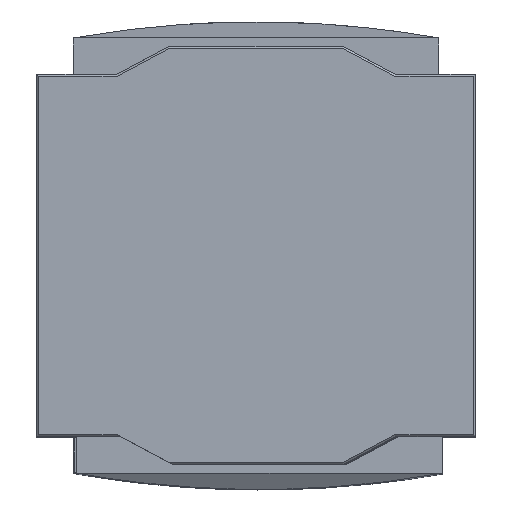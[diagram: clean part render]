
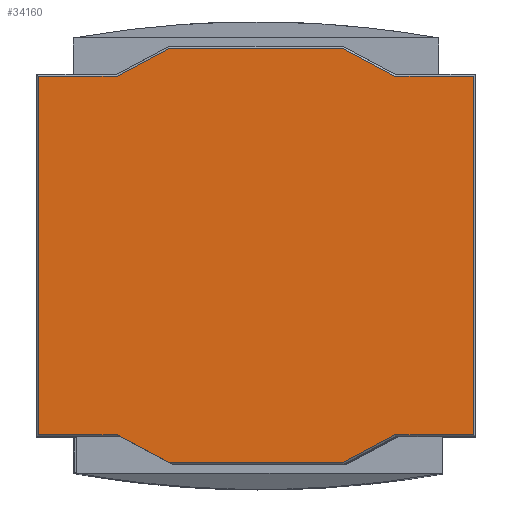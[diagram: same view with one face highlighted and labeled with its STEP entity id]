
A CAD part, top view. The second image highlights one B-rep face of the part: STEP entity #34160.
In plain terms, the highlighted planar face has unit normal (0, 0, 1).
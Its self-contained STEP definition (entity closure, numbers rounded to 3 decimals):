
#20297=CARTESIAN_POINT('',(12.437,-29.75,37.5));
#20298=VERTEX_POINT('',#20297);
#20305=CARTESIAN_POINT('',(-12.437,-29.75,37.5));
#20306=VERTEX_POINT('',#20305);
#20307=CARTESIAN_POINT('',(12.437,-29.75,37.5));
#20308=DIRECTION('',(-1.0,0.0,0.0));
#20309=VECTOR('',#20308,24.875);
#20310=LINE('',#20307,#20309);
#20311=EDGE_CURVE('',#20298,#20306,#20310,.T.);
#33854=CARTESIAN_POINT('',(-31.25,25.75,37.5));
#33855=VERTEX_POINT('',#33854);
#33862=CARTESIAN_POINT('',(-19.938,25.75,37.5));
#33863=VERTEX_POINT('',#33862);
#33864=CARTESIAN_POINT('',(-31.25,25.75,37.5));
#33865=DIRECTION('',(1.0,0.0,0.0));
#33866=VECTOR('',#33865,11.312);
#33867=LINE('',#33864,#33866);
#33868=EDGE_CURVE('',#33855,#33863,#33867,.T.);
#33886=CARTESIAN_POINT('',(-19.937,-25.75,37.5));
#33887=VERTEX_POINT('',#33886);
#33888=CARTESIAN_POINT('',(-31.25,-25.75,37.5));
#33889=VERTEX_POINT('',#33888);
#33890=CARTESIAN_POINT('',(-19.937,-25.75,37.5));
#33891=DIRECTION('',(-1.0,0.0,0.0));
#33892=VECTOR('',#33891,11.313);
#33893=LINE('',#33890,#33892);
#33894=EDGE_CURVE('',#33887,#33889,#33893,.T.);
#33918=CARTESIAN_POINT('',(-12.438,29.75,37.5));
#33919=VERTEX_POINT('',#33918);
#33920=CARTESIAN_POINT('',(-19.938,25.75,37.5));
#33921=DIRECTION('',(0.882,0.471,0.0));
#33922=VECTOR('',#33921,8.5);
#33923=LINE('',#33920,#33922);
#33924=EDGE_CURVE('',#33863,#33919,#33923,.T.);
#33942=CARTESIAN_POINT('',(12.438,29.75,37.5));
#33943=VERTEX_POINT('',#33942);
#33944=CARTESIAN_POINT('',(-12.438,29.75,37.5));
#33945=DIRECTION('',(1.0,0.0,0.0));
#33946=VECTOR('',#33945,24.875);
#33947=LINE('',#33944,#33946);
#33948=EDGE_CURVE('',#33919,#33943,#33947,.T.);
#33966=CARTESIAN_POINT('',(19.937,25.75,37.5));
#33967=VERTEX_POINT('',#33966);
#33968=CARTESIAN_POINT('',(31.25,25.75,37.5));
#33969=VERTEX_POINT('',#33968);
#33970=CARTESIAN_POINT('',(19.937,25.75,37.5));
#33971=DIRECTION('',(1.0,0.0,0.0));
#33972=VECTOR('',#33971,11.313);
#33973=LINE('',#33970,#33972);
#33974=EDGE_CURVE('',#33967,#33969,#33973,.T.);
#33998=CARTESIAN_POINT('',(31.25,-25.75,37.5));
#33999=VERTEX_POINT('',#33998);
#34021=CARTESIAN_POINT('',(31.25,25.75,37.5));
#34022=DIRECTION('',(0.0,-1.0,0.0));
#34023=VECTOR('',#34022,51.5);
#34024=LINE('',#34021,#34023);
#34025=EDGE_CURVE('',#33969,#33999,#34024,.T.);
#34042=CARTESIAN_POINT('',(19.937,-25.75,37.5));
#34043=VERTEX_POINT('',#34042);
#34044=CARTESIAN_POINT('',(31.25,-25.75,37.5));
#34045=DIRECTION('',(-1.0,0.0,0.0));
#34046=VECTOR('',#34045,11.313);
#34047=LINE('',#34044,#34046);
#34048=EDGE_CURVE('',#33999,#34043,#34047,.T.);
#34064=CARTESIAN_POINT('',(19.937,-25.75,37.5));
#34065=DIRECTION('',(-0.882,-0.471,0.0));
#34066=VECTOR('',#34065,8.5);
#34067=LINE('',#34064,#34066);
#34068=EDGE_CURVE('',#34043,#20298,#34067,.T.);
#34081=CARTESIAN_POINT('',(12.438,29.75,37.5));
#34082=DIRECTION('',(0.882,-0.471,0.0));
#34083=VECTOR('',#34082,8.5);
#34084=LINE('',#34081,#34083);
#34085=EDGE_CURVE('',#33943,#33967,#34084,.T.);
#34100=CARTESIAN_POINT('',(-12.437,-29.75,37.5));
#34101=DIRECTION('',(-0.882,0.471,0.0));
#34102=VECTOR('',#34101,8.5);
#34103=LINE('',#34100,#34102);
#34104=EDGE_CURVE('',#20306,#33887,#34103,.T.);
#34119=CARTESIAN_POINT('',(-31.25,-25.75,37.5));
#34120=DIRECTION('',(0.0,1.0,0.0));
#34121=VECTOR('',#34120,51.5);
#34122=LINE('',#34119,#34121);
#34123=EDGE_CURVE('',#33889,#33855,#34122,.T.);
#34141=CARTESIAN_POINT('',(0.,0.,37.5));
#34142=DIRECTION('',(0.0,0.0,1.0));
#34143=DIRECTION('',(1.0,0.0,0.0));
#34144=AXIS2_PLACEMENT_3D('',#34141,#34142,#34143);
#34145=PLANE('',#34144);
#34146=ORIENTED_EDGE('',*,*,#33974,.F.);
#34147=ORIENTED_EDGE('',*,*,#34085,.F.);
#34148=ORIENTED_EDGE('',*,*,#33948,.F.);
#34149=ORIENTED_EDGE('',*,*,#33924,.F.);
#34150=ORIENTED_EDGE('',*,*,#33868,.F.);
#34151=ORIENTED_EDGE('',*,*,#34123,.F.);
#34152=ORIENTED_EDGE('',*,*,#33894,.F.);
#34153=ORIENTED_EDGE('',*,*,#34104,.F.);
#34154=ORIENTED_EDGE('',*,*,#20311,.F.);
#34155=ORIENTED_EDGE('',*,*,#34068,.F.);
#34156=ORIENTED_EDGE('',*,*,#34048,.F.);
#34157=ORIENTED_EDGE('',*,*,#34025,.F.);
#34158=EDGE_LOOP('',(#34146,#34147,#34148,#34149,#34150,#34151,#34152,#34153,#34154,#34155,#34156,#34157));
#34159=FACE_OUTER_BOUND('',#34158,.T.);
#34160=ADVANCED_FACE('',(#34159),#34145,.T.);
